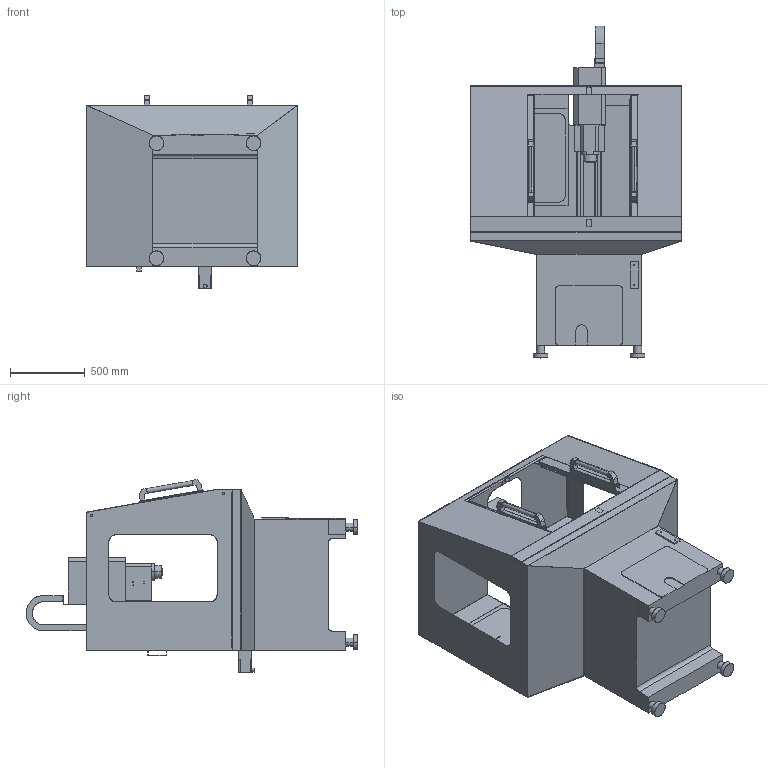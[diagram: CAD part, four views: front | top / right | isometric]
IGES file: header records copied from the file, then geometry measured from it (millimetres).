
Start section: SolidWorks IGES file using analytic representation for surfaces
Global section: file name: C:\Users\Admin\Desktop\770M_MACHINE.IGS; native system: SolidWorks 2016; preprocessor: SolidWorks 2016; author: Admin; date: 180703.083225; units: millimetre
Bounding box: 1415 x 2222.32 x 1291.05 mm (x, y, z)
Surface area: 22759084.8 mm2 (no closed solid volume)
Topology: 0 solids, 0 shells, 1652 faces, 17265 edges, 17265 vertices
Faces by surface type: bspline 1259, revolution 393
